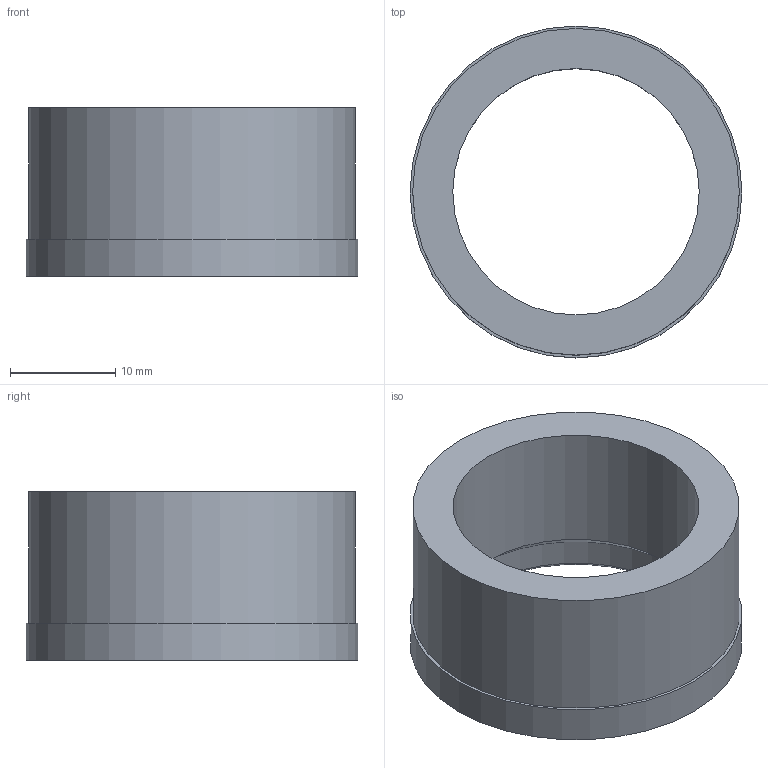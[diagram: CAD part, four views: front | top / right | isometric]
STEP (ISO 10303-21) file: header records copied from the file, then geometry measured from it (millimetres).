
FILE_DESCRIPTION (( 'STEP AP214' ), '1' );
FILE_NAME ('JF-20404-0004.STEP', '2018-05-18T08:06:29', ( '' ), ( '' ), 'SwSTEP 2.0', 'SolidWorks 2017', '' );
FILE_SCHEMA (( 'AUTOMOTIVE_DESIGN' ));
Length unit declared in the file: millimetre
Products named in the file (1): JF-20404-0004
Bounding box: 31.5 x 31.5 x 16 mm (x, y, z)
Volume: 5043.7 mm3; surface area: 3395.2 mm2
Topology: 1 solids, 1 shells, 11 faces, 20 edges, 13 vertices
Faces by surface type: cylinder 4, plane 4, cone 3
Full cylindrical faces by diameter (mm): 23.38 x1, 25.2 x1, 31 x1, 31.5 x1
Entity records: 262 total; most frequent: DIRECTION 46, CARTESIAN_POINT 34, AXIS2_PLACEMENT_3D 23, EDGE_LOOP 22, ORIENTED_EDGE 22, FACE_OUTER_BOUND 15, VERTEX_POINT 11, CIRCLE 11
